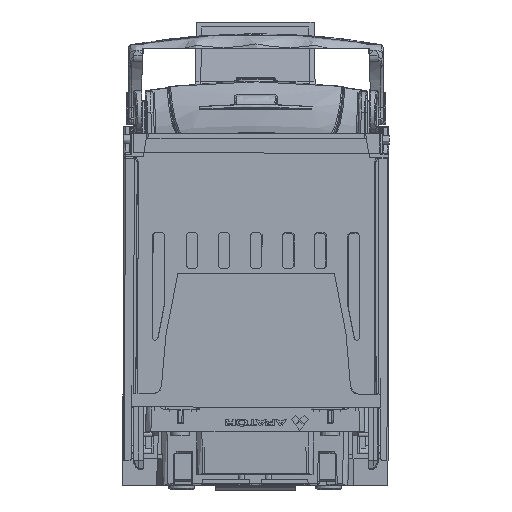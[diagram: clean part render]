
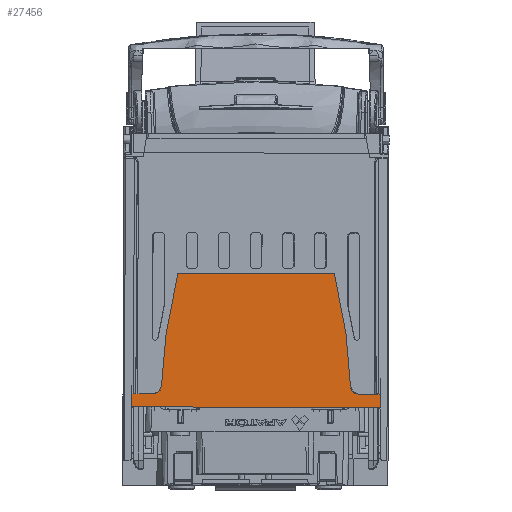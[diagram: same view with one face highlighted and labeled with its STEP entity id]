
A CAD part, left-side view. The second image highlights one B-rep face of the part: STEP entity #27456.
In plain terms, the highlighted planar face has unit normal (-1, 0, 0).
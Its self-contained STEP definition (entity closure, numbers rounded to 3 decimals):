
#16931=CIRCLE('',#207450,3.);
#16932=CIRCLE('',#207452,3.);
#16933=CIRCLE('',#207455,0.5);
#16934=CIRCLE('',#207457,0.5);
#27456=ADVANCED_FACE('',(#43518),#37960,.F.);
#37960=PLANE('',#208600);
#43518=FACE_OUTER_BOUND('',#55419,.T.);
#55419=EDGE_LOOP('',(#77564,#77565,#77566,#77567,#77568,#77569,#77570,#77571,
#77572,#77573,#77574,#77575,#77576,#77577));
#77564=ORIENTED_EDGE('',*,*,#151121,.T.);
#77565=ORIENTED_EDGE('',*,*,#151132,.F.);
#77566=ORIENTED_EDGE('',*,*,#151123,.T.);
#77567=ORIENTED_EDGE('',*,*,#151131,.F.);
#77568=ORIENTED_EDGE('',*,*,#151126,.T.);
#77569=ORIENTED_EDGE('',*,*,#151130,.F.);
#77570=ORIENTED_EDGE('',*,*,#151133,.T.);
#77571=ORIENTED_EDGE('',*,*,#151116,.F.);
#77572=ORIENTED_EDGE('',*,*,#151134,.T.);
#77573=ORIENTED_EDGE('',*,*,#151036,.T.);
#77574=ORIENTED_EDGE('',*,*,#147805,.F.);
#77575=ORIENTED_EDGE('',*,*,#151145,.F.);
#77576=ORIENTED_EDGE('',*,*,#151203,.T.);
#77577=ORIENTED_EDGE('',*,*,#151119,.F.);
#128472=VERTEX_POINT('',#265715);
#128473=VERTEX_POINT('',#265717);
#130997=VERTEX_POINT('',#281254);
#131022=VERTEX_POINT('',#282412);
#131023=VERTEX_POINT('',#282414);
#131024=VERTEX_POINT('',#282418);
#131025=VERTEX_POINT('',#282420);
#131026=VERTEX_POINT('',#282424);
#131027=VERTEX_POINT('',#282428);
#131028=VERTEX_POINT('',#282429);
#131029=VERTEX_POINT('',#282434);
#131030=VERTEX_POINT('',#282435);
#131031=VERTEX_POINT('',#282440);
#131034=VERTEX_POINT('',#282525);
#147805=EDGE_CURVE('',#128472,#128473,#178482,.T.);
#151036=EDGE_CURVE('',#130997,#128473,#179981,.T.);
#151116=EDGE_CURVE('',#131022,#131023,#16931,.T.);
#151119=EDGE_CURVE('',#131024,#131025,#16932,.T.);
#151121=EDGE_CURVE('',#131024,#131026,#180036,.T.);
#151123=EDGE_CURVE('',#131027,#131028,#16933,.T.);
#151126=EDGE_CURVE('',#131029,#131030,#16934,.T.);
#151130=EDGE_CURVE('',#131031,#131030,#180043,.T.);
#151131=EDGE_CURVE('',#131029,#131028,#180044,.T.);
#151132=EDGE_CURVE('',#131027,#131026,#180045,.T.);
#151133=EDGE_CURVE('',#131031,#131023,#180046,.T.);
#151134=EDGE_CURVE('',#131022,#130997,#180047,.T.);
#151145=EDGE_CURVE('',#131034,#128472,#180055,.T.);
#151203=EDGE_CURVE('',#131034,#131025,#180090,.T.);
#178482=LINE('',#265716,#192527);
#179981=LINE('',#281253,#194026);
#180036=LINE('',#282423,#194081);
#180043=LINE('',#282441,#194088);
#180044=LINE('',#282443,#194089);
#180045=LINE('',#282445,#194090);
#180046=LINE('',#282447,#194091);
#180047=LINE('',#282449,#194092);
#180055=LINE('',#282526,#194100);
#180090=LINE('',#283663,#194135);
#192527=VECTOR('',#220731,1.);
#194026=VECTOR('',#225276,1.);
#194081=VECTOR('',#225429,1.);
#194088=VECTOR('',#225446,1.);
#194089=VECTOR('',#225449,1.);
#194090=VECTOR('',#225452,1.);
#194091=VECTOR('',#225455,1.);
#194092=VECTOR('',#225458,1.);
#194100=VECTOR('',#225478,1.);
#194135=VECTOR('',#225599,1.);
#207450=AXIS2_PLACEMENT_3D('',#282413,#225418,#225419);
#207452=AXIS2_PLACEMENT_3D('',#282419,#225424,#225425);
#207455=AXIS2_PLACEMENT_3D('',#282427,#225433,#225434);
#207457=AXIS2_PLACEMENT_3D('',#282433,#225439,#225440);
#208600=AXIS2_PLACEMENT_3D('',#297222,#228911,#228912);
#220731=DIRECTION('',(0.,1.,0.002));
#225276=DIRECTION('',(0.,0.006,-1.));
#225418=DIRECTION('',(-1.,0.,0.));
#225419=DIRECTION('',(0.,1.,0.002));
#225424=DIRECTION('',(-1.,0.,0.));
#225425=DIRECTION('',(0.,1.,0.002));
#225429=DIRECTION('',(0.,0.085,0.996));
#225433=DIRECTION('',(-1.,0.,0.));
#225434=DIRECTION('',(0.,1.,0.002));
#225439=DIRECTION('',(-1.,0.,0.));
#225440=DIRECTION('',(0.,1.,0.002));
#225446=DIRECTION('',(0.,-0.193,0.981));
#225449=DIRECTION('',(0.,-1.,-0.002));
#225452=DIRECTION('',(0.,-0.189,-0.982));
#225455=DIRECTION('',(0.,0.089,-0.996));
#225458=DIRECTION('',(0.,1.,0.002));
#225478=DIRECTION('',(0.,-0.003,-1.));
#225599=DIRECTION('',(0.,1.,0.002));
#228911=DIRECTION('',(1.,0.,0.));
#228912=DIRECTION('',(0.,-1.,-0.002));
#265715=CARTESIAN_POINT('',(-277.559,-46.679,29.156));
#265716=CARTESIAN_POINT('',(-277.56,-0.254,29.237));
#265717=CARTESIAN_POINT('',(-277.561,46.161,29.318));
#281253=CARTESIAN_POINT('',(-277.561,45.58,124.343));
#281254=CARTESIAN_POINT('',(-277.561,46.131,34.218));
#282412=CARTESIAN_POINT('',(-277.561,38.075,34.204));
#282413=CARTESIAN_POINT('',(-277.561,38.07,37.204));
#282414=CARTESIAN_POINT('',(-277.561,35.082,36.937));
#282418=CARTESIAN_POINT('',(-277.559,-35.616,36.814));
#282419=CARTESIAN_POINT('',(-277.559,-38.605,37.07));
#282420=CARTESIAN_POINT('',(-277.559,-38.6,34.07));
#282423=CARTESIAN_POINT('',(-277.559,-35.833,34.288));
#282424=CARTESIAN_POINT('',(-277.559,-33.912,56.688));
#282427=CARTESIAN_POINT('',(-277.56,-29.163,78.706));
#282428=CARTESIAN_POINT('',(-277.56,-29.654,78.801));
#282429=CARTESIAN_POINT('',(-277.56,-29.164,79.206));
#282433=CARTESIAN_POINT('',(-277.561,28.483,78.807));
#282434=CARTESIAN_POINT('',(-277.561,28.482,79.307));
#282435=CARTESIAN_POINT('',(-277.561,28.973,78.903));
#282440=CARTESIAN_POINT('',(-277.561,33.309,56.805));
#282441=CARTESIAN_POINT('',(-277.561,33.309,56.805));
#282443=CARTESIAN_POINT('',(-277.56,-0.341,79.257));
#282445=CARTESIAN_POINT('',(-277.559,-33.912,56.688));
#282447=CARTESIAN_POINT('',(-277.561,35.307,34.412));
#282449=CARTESIAN_POINT('',(-277.561,45.738,34.217));
#282525=CARTESIAN_POINT('',(-277.559,-46.666,34.056));
#282526=CARTESIAN_POINT('',(-277.559,-46.424,126.591));
#283663=CARTESIAN_POINT('',(-277.559,-46.262,34.057));
#297222=CARTESIAN_POINT('',(-277.56,-0.254,29.237));
